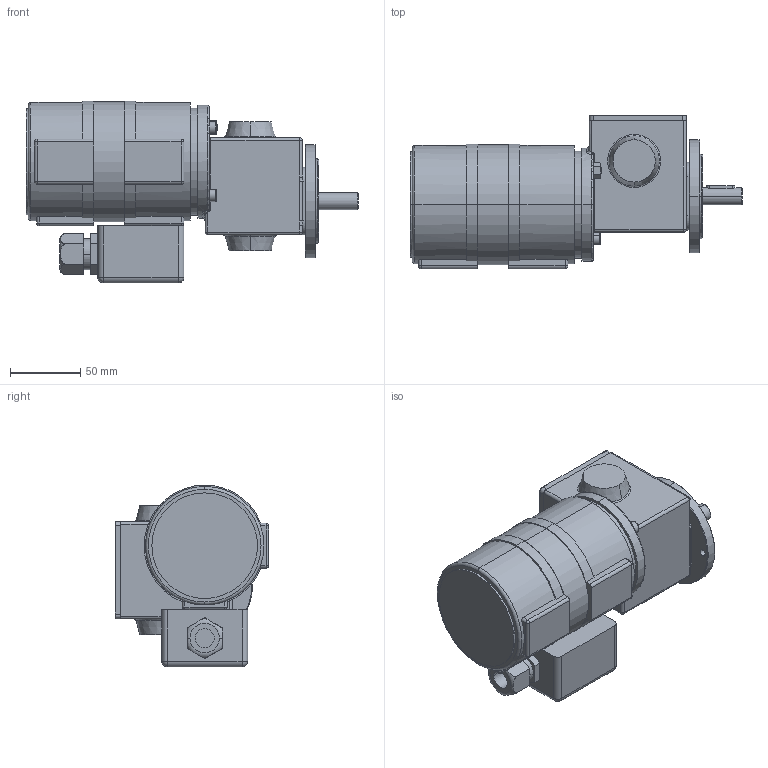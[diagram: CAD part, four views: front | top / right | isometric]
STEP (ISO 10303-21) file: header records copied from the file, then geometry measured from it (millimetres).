
FILE_DESCRIPTION (( 'STEP AP214' ), '1' );
FILE_NAME ('SN4F_45W_1400Upm_Drehstrom-Motor.STEP', '2021-09-23T06:27:01', ( '' ), ( '' ), 'SwSTEP 2.0', 'SolidWorks 2019', '' );
FILE_SCHEMA (( 'AUTOMOTIVE_DESIGN' ));
Length unit declared in the file: millimetre
Products named in the file (16): K_26x6,5; 04F-W-002_3D_Export; socket set screw flat point_din_DIN 913 - M5 x 25-C; hex nut style 1 gradeab_din_Hexagon Nut ISO 4032 - M6 - D - C; hex bolt gradeab_din_DIN EN 24014 - M5 x 25 x 25-C; slotted pan head screw_din_DIN EN ISO 1580 - M5 x 12 - 12C; NBR_WDR_12x37x10; socket head cap screw_din_DIN 912 M5 x 16 --- 16C; SN4F_45W_1400Upm_Drehstrom-Motor; 04F-G-005_3D_Export; SN4F_3D_Export; PF_A4x4x20; 04B-D-003; 04-M-080 I 45W_1400Upm; 04F-F-002; slotted countersunk flat head screw_din_DIN EN ISO 2009 - M5 x 12 - 12C
Assembly tree (22 placements, depth 3):
  SN4F_45W_1400Upm_Drehstrom-Motor
    SN4F_3D_Export
      04F-G-005_3D_Export
      04F-W-002_3D_Export
      04F-F-002
      04B-D-003
      K_26x6,5
      NBR_WDR_12x37x10
      PF_A4x4x20
      slotted countersunk flat head screw_din_DIN EN ISO 2009 - M5 x 12 - 12C  x4
      socket head cap screw_din_DIN 912 M5 x 16 --- 16C  x2
      hex bolt gradeab_din_DIN EN 24014 - M5 x 25 x 25-C
      socket set screw flat point_din_DIN 913 - M5 x 25-C
      hex nut style 1 gradeab_din_Hexagon Nut ISO 4032 - M6 - D - C
      slotted pan head screw_din_DIN EN ISO 1580 - M5 x 12 - 12C  x4
    04-M-080 I 45W_1400Upm
Bounding box: 235.5 x 109 x 129 mm (x, y, z)
Volume: 1348205.1 mm3; surface area: 147702 mm2
Topology: 21 solids, 22 shells, 646 faces, 1465 edges, 868 vertices
Faces by surface type: cylinder 228, plane 223, cone 132, torus 40, sphere 15, bspline 8
Entity records: 16928 total; most frequent: CARTESIAN_POINT 3547, DIRECTION 2783, ORIENTED_EDGE 2368, EDGE_CURVE 1184, AXIS2_PLACEMENT_3D 1125, VERTEX_POINT 721, EDGE_LOOP 621, CIRCLE 569
